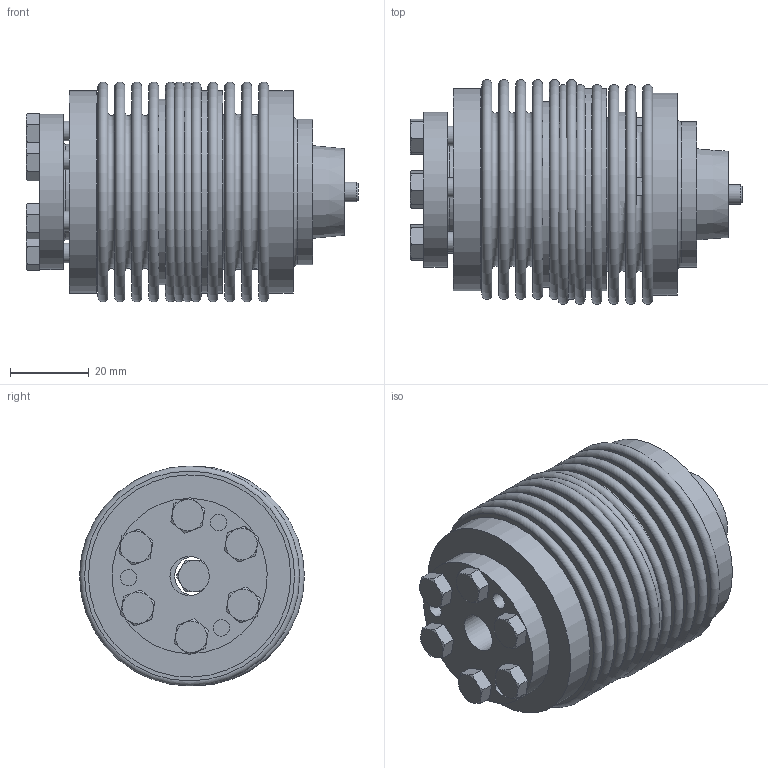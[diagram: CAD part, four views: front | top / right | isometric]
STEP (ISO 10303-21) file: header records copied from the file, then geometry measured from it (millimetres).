
FILE_DESCRIPTION( ( 'Unknown' ), '1' );
FILE_NAME( 'C:/Dokumente und Einstellungen/Sven/Desktop/homepage/cad - homepage/KB5/KB5-30-61.stp', 'Unknown', ( 'Unknown' ), ( 'Unknown' ), 'XStep 1.0', 'Unknown', ' ' );
FILE_SCHEMA( ( 'automotive_design' ) );
Length unit declared in the file: millimetre
Products named in the file (5): Assem1; BA30_Standard_0; Hex Screw GradeC_DIN_ISO 4018 - M5 x 20-NN_0; BL30_Standard; KB30_Standard_0
Bounding box: 84.51 x 57.22 x 55.99 mm (x, y, z)
Volume: 95788.5 mm3; surface area: 113427.1 mm2
Topology: 21 solids, 21 shells, 419 faces, 841 edges, 531 vertices
Faces by surface type: plane 187, cone 97, cylinder 81, torus 54
Full cylindrical faces by diameter (mm): 4.2 x27, 5 x13, 5.5 x18, 10 x3, 24.4 x3, 37 x3, 39.5 x3, 46.5 x4, 47.3 x4, 51.5 x3
Entity records: 2646 total; most frequent: DIRECTION 466, CARTESIAN_POINT 407, ORIENTED_EDGE 264, AXIS2_PLACEMENT_3D 227, EDGE_LOOP 218, FACE_OUTER_BOUND 152, EDGE_CURVE 132, VERTEX_POINT 120
